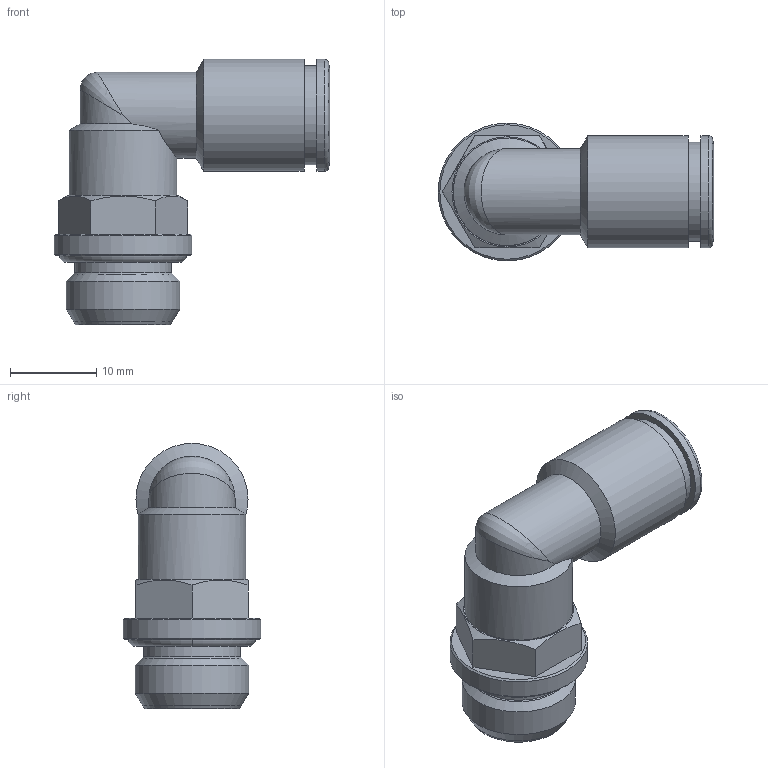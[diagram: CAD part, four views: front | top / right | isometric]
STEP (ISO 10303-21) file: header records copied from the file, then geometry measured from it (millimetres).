
FILE_DESCRIPTION(('Bauteilbeschreibung','HiCAD-Model','HiCAD-STEP-TRANSLATION','Bauteilbeschreibung'),'2;1');
FILE_NAME('B:/ABGLEICH/ZEICHNUNGEN/STEP FÜR INTERNET/STEP/202206_IPSO_022_8_1-8.STP','2011-09-20T11:18:32+00:00',('Konstrukteur'),('Konstrukteur Firma GmbH'),' HiCAD neXt 2008, Step 3.1.1401.2J ','HiCAD neXt 2008','confidential');
FILE_SCHEMA(('AUTOMOTIVE_DESIGN { 1 2 10303 214 0 1 1 1 }'));
Length unit declared in the file: millimetre
Products named in the file (7): A02206_IPSO_022_8_1_8; OR 11_11X1_78; A14603_N2_GEW__1_8_1_4; A146030N20GEW001080104; G 1_4; DR8_1_NEU; R202205_N1_N2
Assembly tree (6 placements, depth 3):
  A02206_IPSO_022_8_1_8
    OR 11_11X1_78
    A14603_N2_GEW__1_8_1_4
    A146030N20GEW001080104
      G 1_4
    DR8_1_NEU
    R202205_N1_N2
Bounding box: 32 x 16 x 30.8 mm (x, y, z)
Volume: 3379.8 mm3; surface area: 5172.3 mm2
Topology: 5 solids, 5 shells, 77 faces, 168 edges, 102 vertices
Faces by surface type: cone 25, cylinder 24, plane 20, torus 7, bspline 1
Full cylindrical faces by diameter (mm): 5.5 x1, 7 x1, 8.1 x1, 8.2 x1, 8.5 x1, 9 x2, 10 x1, 10.1 x3, 11 x1, 11.2 x1, 11.445 x2, 11.5 x1, 11.6 x1, 12.5 x1, 13 x2, 13.157 x1, 16 x1
Entity records: 3520 total; most frequent: CARTESIAN_POINT 1487, DIRECTION 336, ORIENTED_EDGE 208, AXIS2_PLACEMENT_3D 161, EDGE_LOOP 137, EDGE_CURVE 104, COLOUR_RGB 90, PRESENTATION_STYLE_ASSIGNMENT 90
